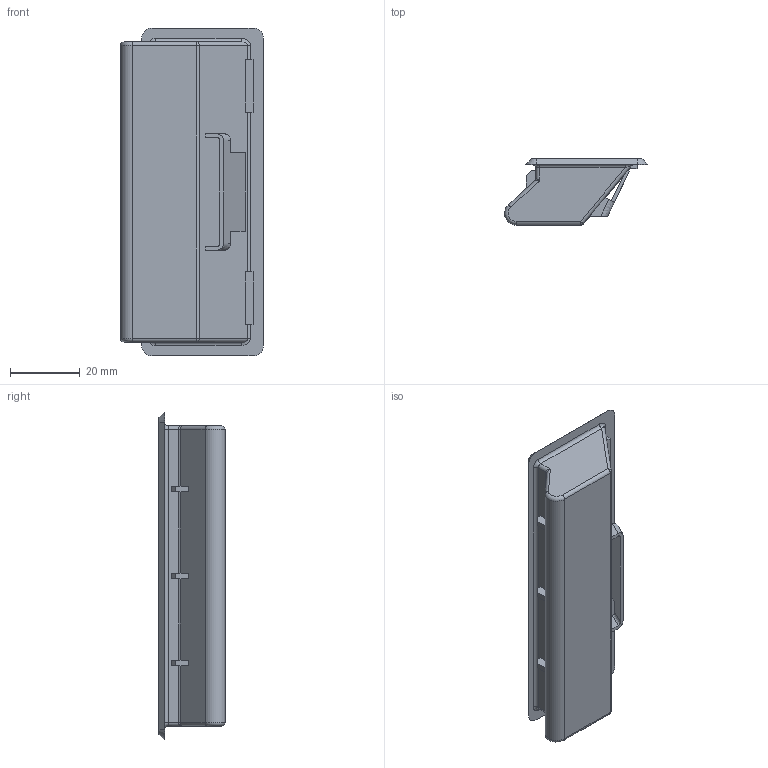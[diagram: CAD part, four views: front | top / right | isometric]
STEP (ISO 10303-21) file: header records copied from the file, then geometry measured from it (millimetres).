
FILE_DESCRIPTION (( 'STEP AP214' ), '1' );
FILE_NAME ('XG01-016-3DMK.STEP', '2025-08-02T08:28:41', ( '微软用户' ), ( '微软中国' ), 'SwSTEP 2.0', 'SolidWorks 2024', '' );
FILE_SCHEMA (( 'AUTOMOTIVE_DESIGN' ));
Length unit declared in the file: millimetre
Products named in the file (1): XG01-016-3DMK
Bounding box: 41.11 x 19 x 94.3 mm (x, y, z)
Volume: 9354.9 mm3; surface area: 15506.9 mm2
Topology: 1 solids, 1 shells, 123 faces, 318 edges, 194 vertices
Faces by surface type: plane 57, cylinder 38, bspline 10, torus 10, cone 4, sphere 4
Entity records: 4052 total; most frequent: CARTESIAN_POINT 1087, ORIENTED_EDGE 628, DIRECTION 605, EDGE_CURVE 314, AXIS2_PLACEMENT_3D 202, LINE 201, VECTOR 201, VERTEX_POINT 194
